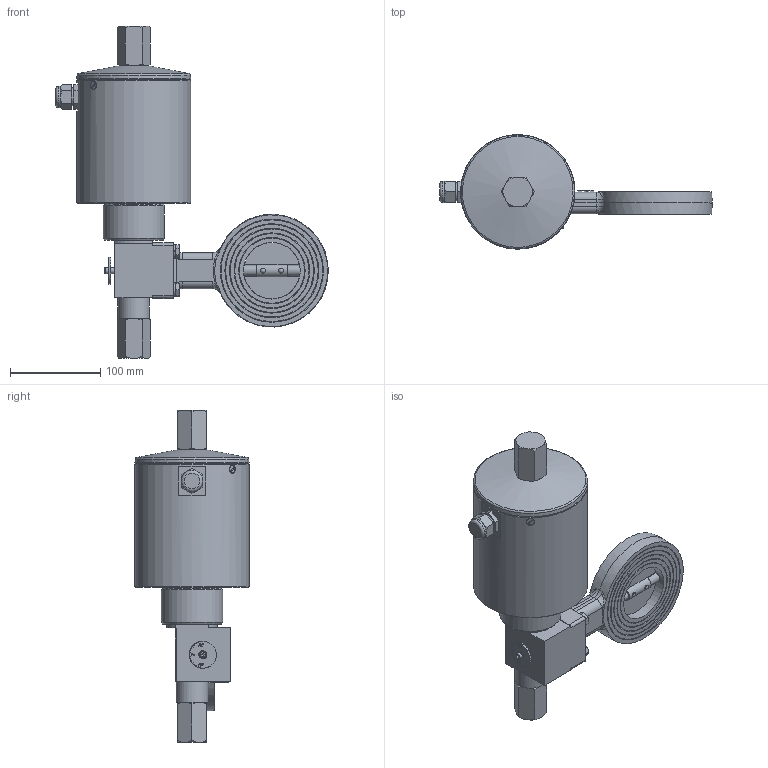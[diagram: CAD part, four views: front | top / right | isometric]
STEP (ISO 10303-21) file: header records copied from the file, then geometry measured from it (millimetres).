
FILE_DESCRIPTION((''),'2;1');
FILE_NAME('G:\CAD-Download\MRK\MRK Ro Ma\DN 65\MRK Ro Ma 25N-4.stp','2010-05-26T08:52:51',('da'),(''),'Autodesk Inventor 2008','Autodesk Inventor 2008','');
FILE_SCHEMA(('AUTOMOTIVE_DESIGN { 1 0 10303 214 1 1 1 1 }'));
Length unit declared in the file: millimetre
Products named in the file (1): MRK Ro Ma 25N-4
Bounding box: 302.86 x 127 x 368.88 mm (x, y, z)
Volume: 2663499.8 mm3; surface area: 181062.2 mm2
Topology: 1 solids, 1 shells, 601 faces, 1542 edges, 987 vertices
Faces by surface type: plane 373, bspline 85, cone 70, cylinder 62, torus 7, sphere 4
Full cylindrical faces by diameter (mm): 7 x2, 8 x4, 9 x1, 11.63 x4, 12 x2, 20 x1, 23.713 x1, 30 x1, 35 x1, 62 x1, 62.5 x1, 63 x1, 68 x1, 124 x1, 127 x1
Entity records: 21176 total; most frequent: CARTESIAN_POINT 7192, ORIENTED_EDGE 2908, DIRECTION 2485, EDGE_CURVE 1454, VERTEX_POINT 964, VECTOR 871, LINE 871, AXIS2_PLACEMENT_3D 807
